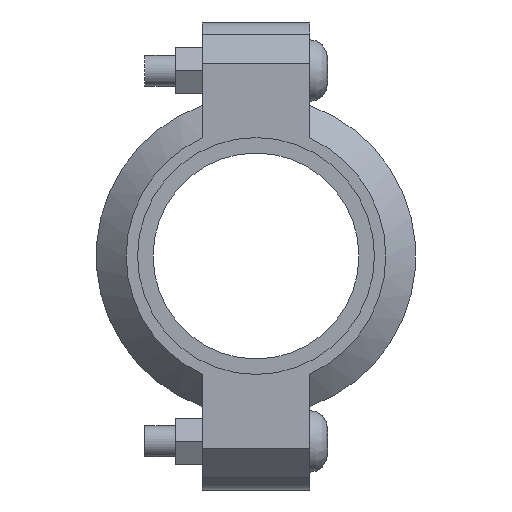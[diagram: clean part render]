
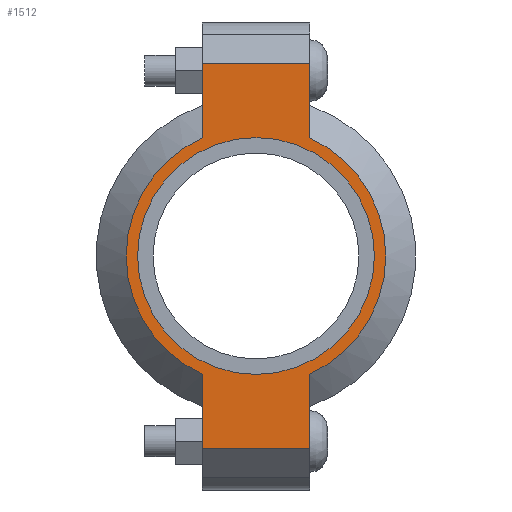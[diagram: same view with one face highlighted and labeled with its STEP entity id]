
A CAD part, left-side view. The second image highlights one B-rep face of the part: STEP entity #1512.
In plain terms, the highlighted planar face has unit normal (-1, 0, 0) as drawn and (0, 0, 1) by its records, which use the part's own axes.
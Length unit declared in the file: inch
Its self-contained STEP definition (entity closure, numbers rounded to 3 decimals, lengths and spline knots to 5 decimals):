
#192=LINE('',#2605,#283);
#200=LINE('',#2641,#291);
#207=LINE('',#2662,#298);
#216=LINE('',#2694,#307);
#217=LINE('',#2698,#308);
#218=LINE('',#2700,#309);
#283=VECTOR('',#2099,0.3937);
#291=VECTOR('',#2115,0.3937);
#298=VECTOR('',#2134,0.3937);
#307=VECTOR('',#2159,0.3937);
#308=VECTOR('',#2164,0.3937);
#309=VECTOR('',#2165,0.3937);
#361=FACE_BOUND('',#521,.T.);
#425=FACE_OUTER_BOUND('',#520,.T.);
#520=EDGE_LOOP('',(#1247,#1248,#1249,#1250,#1251,#1252,#1253,#1254));
#521=EDGE_LOOP('',(#1255));
#618=CIRCLE('',#1755,1.575);
#619=CIRCLE('',#1756,1.575);
#620=CIRCLE('',#1757,1.4375);
#723=VERTEX_POINT('',#2602);
#724=VERTEX_POINT('',#2604);
#735=VERTEX_POINT('',#2636);
#736=VERTEX_POINT('',#2640);
#743=VERTEX_POINT('',#2659);
#744=VERTEX_POINT('',#2661);
#754=VERTEX_POINT('',#2697);
#755=VERTEX_POINT('',#2699);
#756=VERTEX_POINT('',#2702);
#887=EDGE_CURVE('',#724,#723,#192,.T.);
#901=EDGE_CURVE('',#736,#735,#200,.T.);
#911=EDGE_CURVE('',#744,#743,#207,.T.);
#926=EDGE_CURVE('',#736,#723,#216,.T.);
#927=EDGE_CURVE('',#735,#744,#618,.T.);
#928=EDGE_CURVE('',#754,#743,#217,.T.);
#929=EDGE_CURVE('',#754,#755,#218,.T.);
#930=EDGE_CURVE('',#755,#724,#619,.T.);
#931=EDGE_CURVE('',#756,#756,#620,.T.);
#1247=ORIENTED_EDGE('',*,*,#926,.F.);
#1248=ORIENTED_EDGE('',*,*,#901,.T.);
#1249=ORIENTED_EDGE('',*,*,#927,.T.);
#1250=ORIENTED_EDGE('',*,*,#911,.T.);
#1251=ORIENTED_EDGE('',*,*,#928,.F.);
#1252=ORIENTED_EDGE('',*,*,#929,.T.);
#1253=ORIENTED_EDGE('',*,*,#930,.T.);
#1254=ORIENTED_EDGE('',*,*,#887,.T.);
#1255=ORIENTED_EDGE('',*,*,#931,.T.);
#1366=PLANE('',#1754);
#1512=ADVANCED_FACE('',(#425,#361),#1366,.T.);
#1754=AXIS2_PLACEMENT_3D('',#2695,#2160,#2161);
#1755=AXIS2_PLACEMENT_3D('',#2696,#2162,#2163);
#1756=AXIS2_PLACEMENT_3D('',#2701,#2166,#2167);
#1757=AXIS2_PLACEMENT_3D('',#2703,#2168,#2169);
#2099=DIRECTION('',(-1.,0.,0.));
#2115=DIRECTION('',(1.,0.,0.));
#2134=DIRECTION('',(1.,0.,0.));
#2159=DIRECTION('',(0.,1.,0.));
#2160=DIRECTION('center_axis',(0.,0.,1.));
#2161=DIRECTION('ref_axis',(1.,0.,0.));
#2162=DIRECTION('center_axis',(0.,0.,1.));
#2163=DIRECTION('ref_axis',(-1.,0.,0.));
#2164=DIRECTION('',(0.,-1.,0.));
#2165=DIRECTION('',(-1.,0.,0.));
#2166=DIRECTION('center_axis',(0.,0.,1.));
#2167=DIRECTION('ref_axis',(-1.,0.,0.));
#2168=DIRECTION('center_axis',(0.,0.,-1.));
#2169=DIRECTION('ref_axis',(-1.,0.,0.));
#2602=CARTESIAN_POINT('',(-2.34,0.65,0.94));
#2604=CARTESIAN_POINT('',(-1.43462,0.65,0.94));
#2605=CARTESIAN_POINT('',(-2.84,0.65,0.94));
#2636=CARTESIAN_POINT('',(-1.43462,-0.65,0.94));
#2640=CARTESIAN_POINT('',(-2.34,-0.65,0.94));
#2641=CARTESIAN_POINT('',(2.84,-0.65,0.94));
#2659=CARTESIAN_POINT('',(2.34,-0.65,0.94));
#2661=CARTESIAN_POINT('',(1.43462,-0.65,0.94));
#2662=CARTESIAN_POINT('',(2.84,-0.65,0.94));
#2694=CARTESIAN_POINT('',(-2.34,0.325,0.94));
#2695=CARTESIAN_POINT('Origin',(0.,0.,
0.94));
#2696=CARTESIAN_POINT('Origin',(0.,0.,0.94));
#2697=CARTESIAN_POINT('',(2.34,0.65,0.94));
#2698=CARTESIAN_POINT('',(2.34,-0.325,0.94));
#2699=CARTESIAN_POINT('',(1.43462,0.65,0.94));
#2700=CARTESIAN_POINT('',(-2.84,0.65,0.94));
#2701=CARTESIAN_POINT('Origin',(0.,0.,0.94));
#2702=CARTESIAN_POINT('',(1.4375,0.,0.94));
#2703=CARTESIAN_POINT('Origin',(0.,0.,0.94));
